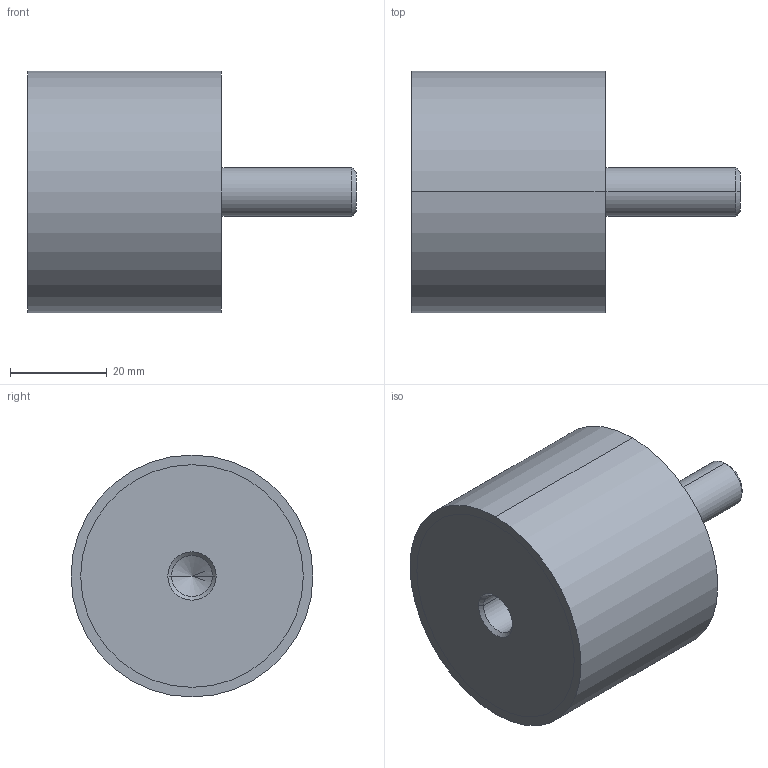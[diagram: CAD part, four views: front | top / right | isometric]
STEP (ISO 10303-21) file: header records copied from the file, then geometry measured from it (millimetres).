
FILE_DESCRIPTION (( 'STEP AP214' ), '1' );
FILE_NAME ('351-50-40-M10-ES-55.step', '2025-07-23T09:50:59', ( '' ), ( '' ), 'SwSTEP 2.0', 'SolidWorks 2022', '' );
FILE_SCHEMA (( 'AUTOMOTIVE_DESIGN' ));
Length unit declared in the file: millimetre
Products named in the file (1): 351-50-40-M10-ES-55
Bounding box: 68 x 50 x 50 mm (x, y, z)
Volume: 80006 mm3; surface area: 11370.4 mm2
Topology: 1 solids, 1 shells, 24 faces, 48 edges, 29 vertices
Faces by surface type: cylinder 12, cone 6, plane 6
Entity records: 740 total; most frequent: DIRECTION 124, CARTESIAN_POINT 100, ORIENTED_EDGE 92, AXIS2_PLACEMENT_3D 53, EDGE_CURVE 46, EDGE_LOOP 29, VERTEX_POINT 29, CIRCLE 28
